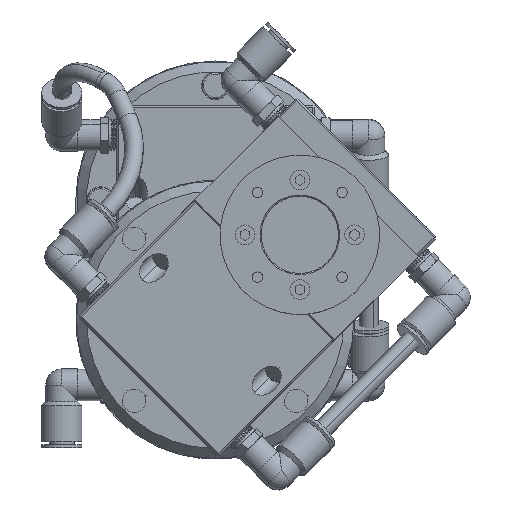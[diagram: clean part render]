
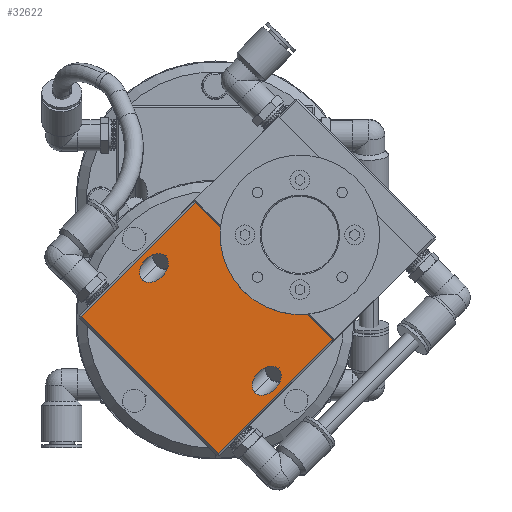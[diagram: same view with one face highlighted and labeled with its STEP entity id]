
A CAD part, top view. The second image highlights one B-rep face of the part: STEP entity #32622.
In plain terms, the highlighted planar face has unit normal (0, 0, 1).
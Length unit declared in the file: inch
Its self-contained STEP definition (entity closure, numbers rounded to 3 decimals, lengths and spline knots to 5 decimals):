
#2118 = ORIENTED_EDGE ( 'NONE', *, *, #45850, .T. ) ;
#2809 = ORIENTED_EDGE ( 'NONE', *, *, #57958, .T. ) ;
#3466 = VERTEX_POINT ( 'NONE', #19583 ) ;
#3514 = CARTESIAN_POINT ( 'NONE',  ( 0.72766, -1.14678, -0.01926 ) ) ;
#3914 = CARTESIAN_POINT ( 'NONE',  ( 1.14633, -1.56532, -0.01926 ) ) ;
#4667 = VERTEX_POINT ( 'NONE', #18532 ) ;
#5048 = VERTEX_POINT ( 'NONE', #37710 ) ;
#6286 = PLANE ( 'NONE',  #32549 ) ;
#7183 = ORIENTED_EDGE ( 'NONE', *, *, #16296, .T. ) ;
#8651 = VERTEX_POINT ( 'NONE', #13040 ) ;
#9125 = CARTESIAN_POINT ( 'NONE',  ( -0.18147, 0.354, -0.01926 ) ) ;
#10307 = DIRECTION ( 'NONE',  ( -0.707, 0.707, 0. ) ) ;
#11877 = LINE ( 'NONE', #51068, #60822 ) ;
#12758 =( BOUNDED_CURVE ( )  B_SPLINE_CURVE ( 3, ( #61119, #3514, #32093, #56061 ),
 .UNSPECIFIED., .F., .F. ) 
 B_SPLINE_CURVE_WITH_KNOTS ( ( 4, 4 ),
 ( 3.14159, 6.28319 ),
 .UNSPECIFIED. ) 
 CURVE ( )  GEOMETRIC_REPRESENTATION_ITEM ( )  RATIONAL_B_SPLINE_CURVE ( ( 1., 0.333, 0.333, 1. ) ) 
 REPRESENTATION_ITEM ( '' )  );
#13040 = CARTESIAN_POINT ( 'NONE',  ( 0.937, -1.35605, -0.01926 ) ) ;
#13550 = CARTESIAN_POINT ( 'NONE',  ( 1.9072, -0.68966, -0.01926 ) ) ;
#14321 = DIRECTION ( 'NONE',  ( 0.707, -0.707, 0. ) ) ;
#14586 = VECTOR ( 'NONE', #15702, 39.37008 ) ;
#15625 = CARTESIAN_POINT ( 'NONE',  ( 0.02786, 0.14472, -0.01926 ) ) ;
#15702 = DIRECTION ( 'NONE',  ( 0.707, -0.707, 0. ) ) ;
#16296 = EDGE_CURVE ( 'Defeatured_3_2+Defeatured_3_59+Defeatured_3_59+Defeatured_3_59', #43990, #56656, #37468, .T. ) ;
#17095 = EDGE_CURVE ( 'Defeatured_3_2+Defeatured_3_61+Defeatured_3_61+Defeatured_3_61', #23794, #8651, #55230, .T. ) ;
#18532 = CARTESIAN_POINT ( 'NONE',  ( 0.47482, -2.12247, -0.01926 ) ) ;
#18661 = CARTESIAN_POINT ( 'NONE',  ( -0.68676, 0.26723, -0.01926 ) ) ;
#19064 = EDGE_CURVE ( 'Defeatured_3_2+Defeatured_3_17+Defeatured_3_15+Defeatured_3_0', #4667, #28009, #11877, .T. ) ;
#19583 = CARTESIAN_POINT ( 'NONE',  ( -1.24371, -0.40446, -0.01926 ) ) ;
#20268 = CARTESIAN_POINT ( 'NONE',  ( -0.47743, 0.05795, -0.01926 ) ) ;
#22404 = ORIENTED_EDGE ( 'NONE', *, *, #46988, .T. ) ;
#23179 = CARTESIAN_POINT ( 'NONE',  ( -1.26138, -0.42214, -0.01926 ) ) ;
#23285 = CARTESIAN_POINT ( 'NONE',  ( -0.47743, 0.05795, -0.01926 ) ) ;
#23794 = VERTEX_POINT ( 'NONE', #27784 ) ;
#23975 = LINE ( 'NONE', #23179, #36736 ) ;
#23998 = ORIENTED_EDGE ( 'NONE', *, *, #17095, .T. ) ;
#27784 = CARTESIAN_POINT ( 'NONE',  ( 1.23295, -1.06001, -0.01926 ) ) ;
#28009 = VERTEX_POINT ( 'NONE', #13550 ) ;
#28086 = CARTESIAN_POINT ( 'NONE',  ( 0.937, -1.35605, -0.01926 ) ) ;
#28343 = CARTESIAN_POINT ( 'NONE',  ( -0.3908, 0.56327, -0.01926 ) ) ;
#29465 = CARTESIAN_POINT ( 'NONE',  ( -0.47743, 0.05795, -0.01926 ) ) ;
#29947 = CARTESIAN_POINT ( 'NONE',  ( -0.18147, 0.354, -0.01926 ) ) ;
#30165 = EDGE_LOOP ( 'NONE', ( #22404, #23998 ) ) ;
#32093 = CARTESIAN_POINT ( 'NONE',  ( 1.02362, -0.85073, -0.01926 ) ) ;
#32549 = AXIS2_PLACEMENT_3D ( 'NONE', #44305, #54235, #10307 ) ;
#32622 = ADVANCED_FACE ( 'Defeatured_3_2', ( #58250, #37902, #62009 ), #6286, .F. ) ;
#33891 = ORIENTED_EDGE ( 'NONE', *, *, #60494, .T. ) ;
#34798 = EDGE_CURVE ( 'Defeatured_3_0+Defeatured_3_2+Defeatured_3_11+Defeatured_3_17', #5048, #28009, #61812, .T. ) ;
#35165 = CARTESIAN_POINT ( 'NONE',  ( -0.26809, -0.15132, -0.01926 ) ) ;
#36736 = VECTOR ( 'NONE', #61256, 39.37008 ) ;
#36906 = CARTESIAN_POINT ( 'NONE',  ( 1.23295, -1.06001, -0.01926 ) ) ;
#37468 =( BOUNDED_CURVE ( )  B_SPLINE_CURVE ( 3, ( #29947, #15625, #35165, #20268 ),
 .UNSPECIFIED., .F., .F. ) 
 B_SPLINE_CURVE_WITH_KNOTS ( ( 4, 4 ),
 ( 0., 3.14159 ),
 .UNSPECIFIED. ) 
 CURVE ( )  GEOMETRIC_REPRESENTATION_ITEM ( )  RATIONAL_B_SPLINE_CURVE ( ( 1., 0.333, 0.333, 1. ) ) 
 REPRESENTATION_ITEM ( '' )  );
#37658 = CARTESIAN_POINT ( 'NONE',  ( 0.171, 1.04603, -0.01926 ) ) ;
#37710 = CARTESIAN_POINT ( 'NONE',  ( 0.18868, 1.02836, -0.01926 ) ) ;
#37902 = FACE_BOUND ( 'NONE', #46648, .T. ) ;
#43990 = VERTEX_POINT ( 'NONE', #9125 ) ;
#44305 = CARTESIAN_POINT ( 'NONE',  ( -1.27906, -0.40446, -0.01926 ) ) ;
#44435 = ORIENTED_EDGE ( 'NONE', *, *, #34798, .F. ) ;
#44696 = CARTESIAN_POINT ( 'NONE',  ( -1.26139, -0.38678, -0.01926 ) ) ;
#45850 = EDGE_CURVE ( 'Defeatured_3_2+Defeatured_3_15+Defeatured_3_11+Defeatured_3_17', #3466, #4667, #58980, .T. ) ;
#45901 = EDGE_LOOP ( 'NONE', ( #2118, #46129, #44435, #2809 ) ) ;
#46129 = ORIENTED_EDGE ( 'NONE', *, *, #19064, .T. ) ;
#46224 = DIRECTION ( 'NONE',  ( 0.707, 0.707, 0. ) ) ;
#46549 = CARTESIAN_POINT ( 'NONE',  ( 1.44229, -1.26928, -0.01926 ) ) ;
#46648 = EDGE_LOOP ( 'NONE', ( #33891, #7183 ) ) ;
#46988 = EDGE_CURVE ( 'Defeatured_3_2+Defeatured_3_61+Defeatured_3_61+Defeatured_3_61', #8651, #23794, #12758, .T. ) ;
#47859 = CARTESIAN_POINT ( 'NONE',  ( -0.18147, 0.354, -0.01926 ) ) ;
#50482 = VECTOR ( 'NONE', #14321, 39.37008 ) ;
#51068 = CARTESIAN_POINT ( 'NONE',  ( 1.9072, -0.68966, -0.01926 ) ) ;
#54235 = DIRECTION ( 'NONE',  ( 0., 0., -1. ) ) ;
#55156 =( BOUNDED_CURVE ( )  B_SPLINE_CURVE ( 3, ( #23285, #18661, #28343, #47859 ),
 .UNSPECIFIED., .F., .F. ) 
 B_SPLINE_CURVE_WITH_KNOTS ( ( 4, 4 ),
 ( 3.14159, 6.28319 ),
 .UNSPECIFIED. ) 
 CURVE ( )  GEOMETRIC_REPRESENTATION_ITEM ( )  RATIONAL_B_SPLINE_CURVE ( ( 1., 0.333, 0.333, 1. ) ) 
 REPRESENTATION_ITEM ( '' )  );
#55230 =( BOUNDED_CURVE ( )  B_SPLINE_CURVE ( 3, ( #36906, #46549, #3914, #28086 ),
 .UNSPECIFIED., .F., .F. ) 
 B_SPLINE_CURVE_WITH_KNOTS ( ( 4, 4 ),
 ( 0., 3.14159 ),
 .UNSPECIFIED. ) 
 CURVE ( )  GEOMETRIC_REPRESENTATION_ITEM ( )  RATIONAL_B_SPLINE_CURVE ( ( 1., 0.333, 0.333, 1. ) ) 
 REPRESENTATION_ITEM ( '' )  );
#56061 = CARTESIAN_POINT ( 'NONE',  ( 1.23295, -1.06001, -0.01926 ) ) ;
#56656 = VERTEX_POINT ( 'NONE', #29465 ) ;
#57958 = EDGE_CURVE ( 'Defeatured_3_2+Defeatured_3_11+Defeatured_3_0+Defeatured_3_15', #5048, #3466, #23975, .T. ) ;
#58250 = FACE_BOUND ( 'NONE', #30165, .T. ) ;
#58980 = LINE ( 'NONE', #44696, #14586 ) ;
#60494 = EDGE_CURVE ( 'Defeatured_3_2+Defeatured_3_59+Defeatured_3_59+Defeatured_3_59', #56656, #43990, #55156, .T. ) ;
#60822 = VECTOR ( 'NONE', #46224, 39.37008 ) ;
#61119 = CARTESIAN_POINT ( 'NONE',  ( 0.937, -1.35605, -0.01926 ) ) ;
#61256 = DIRECTION ( 'NONE',  ( -0.707, -0.707, 0. ) ) ;
#61812 = LINE ( 'NONE', #37658, #50482 ) ;
#62009 = FACE_OUTER_BOUND ( 'NONE', #45901, .T. ) ;
